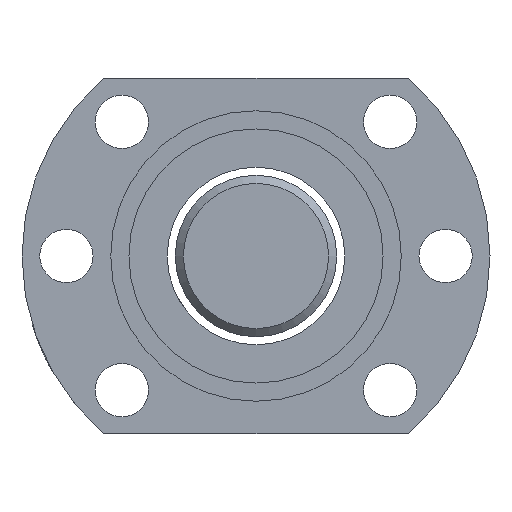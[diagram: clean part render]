
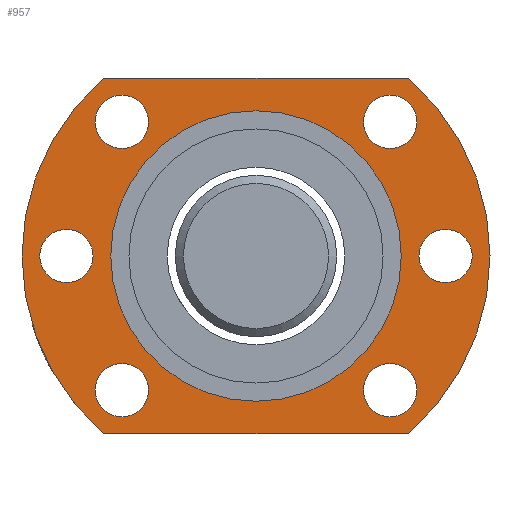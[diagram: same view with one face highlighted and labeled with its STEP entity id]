
A CAD part, left-side view. The second image highlights one B-rep face of the part: STEP entity #957.
In plain terms, the highlighted planar face has unit normal (-1, 0, 0).
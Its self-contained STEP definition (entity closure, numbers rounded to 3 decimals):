
#19 = AXIS2_PLACEMENT_3D ( 'NONE', #1219, #261, #1233 ) ;
#78 = FACE_BOUND ( 'NONE', #1371, .T. ) ;
#92 = ORIENTED_EDGE ( 'NONE', *, *, #218, .F. ) ;
#102 = VERTEX_POINT ( 'NONE', #1835 ) ;
#137 = EDGE_CURVE ( 'NONE', #1737, #1647, #1224, .T. ) ;
#162 = ORIENTED_EDGE ( 'NONE', *, *, #401, .T. ) ;
#163 = CARTESIAN_POINT ( 'NONE',  ( 37.833, -32.074, 1.165 ) ) ;
#172 = AXIS2_PLACEMENT_3D ( 'NONE', #1455, #2224, #485 ) ;
#218 = EDGE_CURVE ( 'NONE', #2452, #2452, #1414, .T. ) ;
#221 = CIRCLE ( 'NONE', #1553, 29. ) ;
#261 = DIRECTION ( 'NONE',  ( -1., 0., 0. ) ) ;
#265 = VECTOR ( 'NONE', #897, 1000. ) ;
#266 = CARTESIAN_POINT ( 'NONE',  ( 37.833, -32.074, 19.165 ) ) ;
#320 = AXIS2_PLACEMENT_3D ( 'NONE', #1440, #2221, #892 ) ;
#341 = AXIS2_PLACEMENT_3D ( 'NONE', #493, #891, #2041 ) ;
#344 = EDGE_LOOP ( 'NONE', ( #1072 ) ) ;
#401 = EDGE_CURVE ( 'NONE', #2418, #1721, #672, .T. ) ;
#417 = EDGE_LOOP ( 'NONE', ( #1634 ) ) ;
#429 = EDGE_LOOP ( 'NONE', ( #1749 ) ) ;
#448 = DIRECTION ( 'NONE',  ( -1., 0., 0. ) ) ;
#478 = ORIENTED_EDGE ( 'NONE', *, *, #1628, .T. ) ;
#485 = DIRECTION ( 'NONE',  ( 0., 0., 1. ) ) ;
#493 = CARTESIAN_POINT ( 'NONE',  ( 37.833, -32.074, 19.165 ) ) ;
#494 = CIRCLE ( 'NONE', #1229, 3.3 ) ;
#519 = DIRECTION ( 'NONE',  ( -1., 0., 0. ) ) ;
#573 = CARTESIAN_POINT ( 'NONE',  ( 37.833, -32.074, 19.165 ) ) ;
#608 = VERTEX_POINT ( 'NONE', #2189 ) ;
#637 = DIRECTION ( 'NONE',  ( 0., 0., 1. ) ) ;
#672 = LINE ( 'NONE', #1824, #265 ) ;
#705 = ORIENTED_EDGE ( 'NONE', *, *, #137, .T. ) ;
#731 = EDGE_LOOP ( 'NONE', ( #1890 ) ) ;
#739 = EDGE_LOOP ( 'NONE', ( #1228 ) ) ;
#824 = DIRECTION ( 'NONE',  ( 0., -1., 0. ) ) ;
#847 = FACE_BOUND ( 'NONE', #2166, .T. ) ;
#853 = CARTESIAN_POINT ( 'NONE',  ( 37.833, -48.691, 39.082 ) ) ;
#864 = VERTEX_POINT ( 'NONE', #1468 ) ;
#891 = DIRECTION ( 'NONE',  ( -1., 0., 0. ) ) ;
#892 = DIRECTION ( 'NONE',  ( 0., 0., -1. ) ) ;
#897 = DIRECTION ( 'NONE',  ( 0., 1., 0. ) ) ;
#920 = EDGE_CURVE ( 'NONE', #1721, #1737, #1581, .T. ) ;
#927 = CIRCLE ( 'NONE', #1053, 3.3 ) ;
#957 = ADVANCED_FACE ( 'NONE', ( #1035, #78, #1047, #1079, #1840, #1476, #847, #1617 ), #2424, .T. ) ;
#1000 = CARTESIAN_POINT ( 'NONE',  ( 37.833, -13.179, -2.835 ) ) ;
#1008 = DIRECTION ( 'NONE',  ( -1., 0., 0. ) ) ;
#1035 = FACE_BOUND ( 'NONE', #417, .T. ) ;
#1041 = VERTEX_POINT ( 'NONE', #853 ) ;
#1047 = FACE_BOUND ( 'NONE', #731, .T. ) ;
#1053 = AXIS2_PLACEMENT_3D ( 'NONE', #2365, #1008, #1958 ) ;
#1072 = ORIENTED_EDGE ( 'NONE', *, *, #2070, .F. ) ;
#1079 = FACE_BOUND ( 'NONE', #739, .T. ) ;
#1098 = CIRCLE ( 'NONE', #19, 3.3 ) ;
#1170 = CARTESIAN_POINT ( 'NONE',  ( 37.833, -13.179, 41.165 ) ) ;
#1174 = EDGE_CURVE ( 'NONE', #608, #608, #927, .T. ) ;
#1193 = CARTESIAN_POINT ( 'NONE',  ( 37.833, -15.457, 35.782 ) ) ;
#1203 = VERTEX_POINT ( 'NONE', #2359 ) ;
#1212 = CARTESIAN_POINT ( 'NONE',  ( 37.833, -13.179, -2.835 ) ) ;
#1219 = CARTESIAN_POINT ( 'NONE',  ( 37.833, -8.574, 19.165 ) ) ;
#1224 = LINE ( 'NONE', #1000, #1527 ) ;
#1228 = ORIENTED_EDGE ( 'NONE', *, *, #2148, .F. ) ;
#1229 = AXIS2_PLACEMENT_3D ( 'NONE', #1193, #2191, #637 ) ;
#1233 = DIRECTION ( 'NONE',  ( 0., 0., 1. ) ) ;
#1302 = CARTESIAN_POINT ( 'NONE',  ( 37.833, -55.574, 19.165 ) ) ;
#1360 = DIRECTION ( 'NONE',  ( 0., 0., 1. ) ) ;
#1371 = EDGE_LOOP ( 'NONE', ( #1533 ) ) ;
#1387 = EDGE_CURVE ( 'NONE', #1203, #1203, #2272, .T. ) ;
#1414 = CIRCLE ( 'NONE', #341, 18. ) ;
#1440 = CARTESIAN_POINT ( 'NONE',  ( 37.833, -32.074, 19.165 ) ) ;
#1455 = CARTESIAN_POINT ( 'NONE',  ( 37.833, -48.691, 2.548 ) ) ;
#1459 = AXIS2_PLACEMENT_3D ( 'NONE', #266, #448, #1852 ) ;
#1468 = CARTESIAN_POINT ( 'NONE',  ( 37.833, -15.457, 39.082 ) ) ;
#1471 = AXIS2_PLACEMENT_3D ( 'NONE', #1302, #2474, #1360 ) ;
#1476 = FACE_OUTER_BOUND ( 'NONE', #2012, .T. ) ;
#1507 = CARTESIAN_POINT ( 'NONE',  ( 37.833, -50.968, 41.165 ) ) ;
#1527 = VECTOR ( 'NONE', #824, 1000. ) ;
#1528 = EDGE_CURVE ( 'NONE', #1041, #1041, #1910, .T. ) ;
#1533 = ORIENTED_EDGE ( 'NONE', *, *, #1387, .T. ) ;
#1553 = AXIS2_PLACEMENT_3D ( 'NONE', #573, #519, #2077 ) ;
#1558 = DIRECTION ( 'NONE',  ( 0., 0., 1. ) ) ;
#1581 = CIRCLE ( 'NONE', #320, 29. ) ;
#1617 = FACE_BOUND ( 'NONE', #429, .T. ) ;
#1628 = EDGE_CURVE ( 'NONE', #1647, #2418, #221, .T. ) ;
#1634 = ORIENTED_EDGE ( 'NONE', *, *, #1528, .T. ) ;
#1647 = VERTEX_POINT ( 'NONE', #1691 ) ;
#1691 = CARTESIAN_POINT ( 'NONE',  ( 37.833, -50.968, -2.835 ) ) ;
#1721 = VERTEX_POINT ( 'NONE', #1170 ) ;
#1737 = VERTEX_POINT ( 'NONE', #1212 ) ;
#1749 = ORIENTED_EDGE ( 'NONE', *, *, #2339, .T. ) ;
#1824 = CARTESIAN_POINT ( 'NONE',  ( 37.833, -50.968, 41.165 ) ) ;
#1835 = CARTESIAN_POINT ( 'NONE',  ( 37.833, -8.574, 22.465 ) ) ;
#1840 = FACE_BOUND ( 'NONE', #344, .T. ) ;
#1852 = DIRECTION ( 'NONE',  ( 0., 0., 1. ) ) ;
#1871 = CIRCLE ( 'NONE', #1471, 3.3 ) ;
#1890 = ORIENTED_EDGE ( 'NONE', *, *, #1174, .F. ) ;
#1910 = CIRCLE ( 'NONE', #2196, 3.3 ) ;
#1920 = CARTESIAN_POINT ( 'NONE',  ( 37.833, -48.691, 35.782 ) ) ;
#1952 = ORIENTED_EDGE ( 'NONE', *, *, #920, .T. ) ;
#1958 = DIRECTION ( 'NONE',  ( 0., 0., 1. ) ) ;
#2012 = EDGE_LOOP ( 'NONE', ( #1952, #705, #478, #162 ) ) ;
#2041 = DIRECTION ( 'NONE',  ( 0., 0., -1. ) ) ;
#2070 = EDGE_CURVE ( 'NONE', #102, #102, #1098, .T. ) ;
#2077 = DIRECTION ( 'NONE',  ( 0., 0., -1. ) ) ;
#2148 = EDGE_CURVE ( 'NONE', #864, #864, #494, .T. ) ;
#2166 = EDGE_LOOP ( 'NONE', ( #92 ) ) ;
#2189 = CARTESIAN_POINT ( 'NONE',  ( 37.833, -15.457, 5.848 ) ) ;
#2191 = DIRECTION ( 'NONE',  ( -1., 0., 0. ) ) ;
#2196 = AXIS2_PLACEMENT_3D ( 'NONE', #1920, #2310, #1558 ) ;
#2221 = DIRECTION ( 'NONE',  ( -1., 0., 0. ) ) ;
#2224 = DIRECTION ( 'NONE',  ( 1., 0., 0. ) ) ;
#2240 = VERTEX_POINT ( 'NONE', #2395 ) ;
#2272 = CIRCLE ( 'NONE', #172, 3.3 ) ;
#2310 = DIRECTION ( 'NONE',  ( 1., 0., 0. ) ) ;
#2339 = EDGE_CURVE ( 'NONE', #2240, #2240, #1871, .T. ) ;
#2359 = CARTESIAN_POINT ( 'NONE',  ( 37.833, -48.691, 5.848 ) ) ;
#2365 = CARTESIAN_POINT ( 'NONE',  ( 37.833, -15.457, 2.548 ) ) ;
#2395 = CARTESIAN_POINT ( 'NONE',  ( 37.833, -55.574, 22.465 ) ) ;
#2418 = VERTEX_POINT ( 'NONE', #1507 ) ;
#2424 = PLANE ( 'NONE',  #1459 ) ;
#2452 = VERTEX_POINT ( 'NONE', #163 ) ;
#2474 = DIRECTION ( 'NONE',  ( 1., 0., 0. ) ) ;
